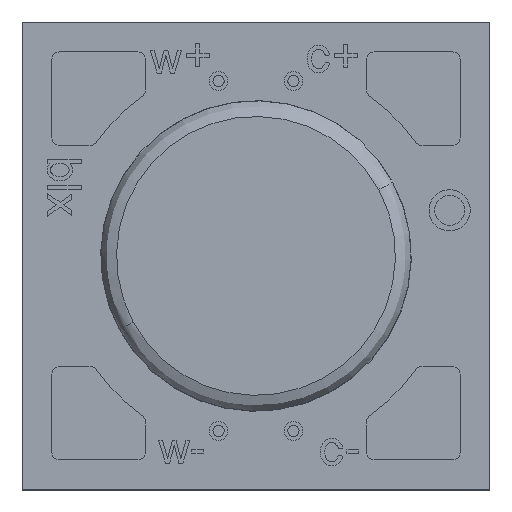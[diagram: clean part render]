
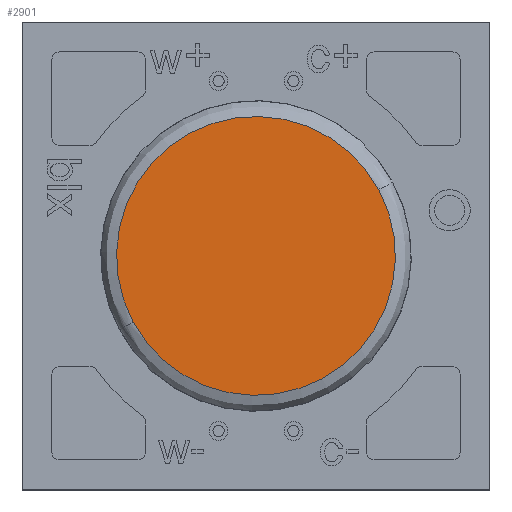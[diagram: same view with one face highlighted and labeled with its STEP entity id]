
A CAD part, top view. The second image highlights one B-rep face of the part: STEP entity #2901.
In plain terms, the highlighted planar face has unit normal (0, 0, 1).
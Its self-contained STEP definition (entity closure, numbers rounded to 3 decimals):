
#344 = CARTESIAN_POINT ( 'NONE',  ( -2.715, 0.148, 13.6 ) ) ;
#1038 = DIRECTION ( 'NONE',  ( 0.88, 0.476, 0. ) ) ;
#1298 = AXIS2_PLACEMENT_3D ( 'NONE', #1827, #6553, #2498 ) ;
#1675 = CIRCLE ( 'NONE', #2291, 3.725 ) ;
#1827 = CARTESIAN_POINT ( 'NONE',  ( -2.715, 0.148, 13.6 ) ) ;
#2151 = AXIS2_PLACEMENT_3D ( 'NONE', #6585, #2526, #7254 ) ;
#2291 = AXIS2_PLACEMENT_3D ( 'NONE', #344, #5082, #1038 ) ;
#2488 = PLANE ( 'NONE',  #2151 ) ;
#2498 = DIRECTION ( 'NONE',  ( 0.88, 0.476, 0. ) ) ;
#2522 = FACE_OUTER_BOUND ( 'NONE', #3392, .T. ) ;
#2526 = DIRECTION ( 'NONE',  ( 0., 0., -1. ) ) ;
#2901 = ADVANCED_FACE ( 'NONE', ( #2522 ), #2488, .F. ) ;
#3306 = EDGE_CURVE ( 'NONE', #4327, #7417, #1675, .T. ) ;
#3392 = EDGE_LOOP ( 'NONE', ( #8351, #5803 ) ) ;
#4295 = CARTESIAN_POINT ( 'NONE',  ( 0.561, 1.92, 13.6 ) ) ;
#4327 = VERTEX_POINT ( 'NONE', #4295 ) ;
#4961 = CIRCLE ( 'NONE', #1298, 3.725 ) ;
#5082 = DIRECTION ( 'NONE',  ( 0., 0., 1. ) ) ;
#5803 = ORIENTED_EDGE ( 'NONE', *, *, #7863, .T. ) ;
#6553 = DIRECTION ( 'NONE',  ( 0., 0., 1. ) ) ;
#6585 = CARTESIAN_POINT ( 'NONE',  ( -0.89, 1.135, 13.6 ) ) ;
#7254 = DIRECTION ( 'NONE',  ( -0.88, -0.476, 0. ) ) ;
#7417 = VERTEX_POINT ( 'NONE', #8533 ) ;
#7863 = EDGE_CURVE ( 'NONE', #7417, #4327, #4961, .T. ) ;
#8351 = ORIENTED_EDGE ( 'NONE', *, *, #3306, .T. ) ;
#8533 = CARTESIAN_POINT ( 'NONE',  ( -5.991, -1.624, 13.6 ) ) ;
